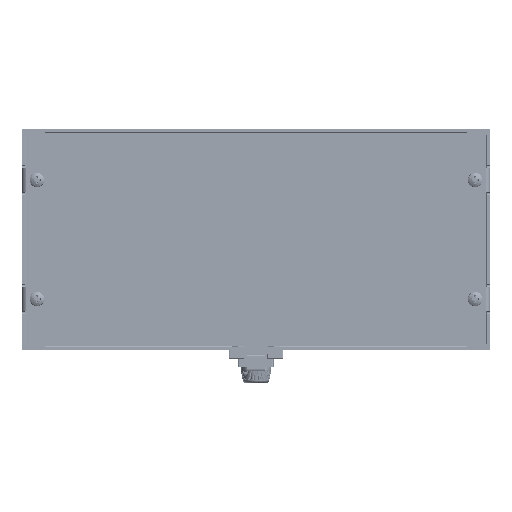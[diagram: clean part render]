
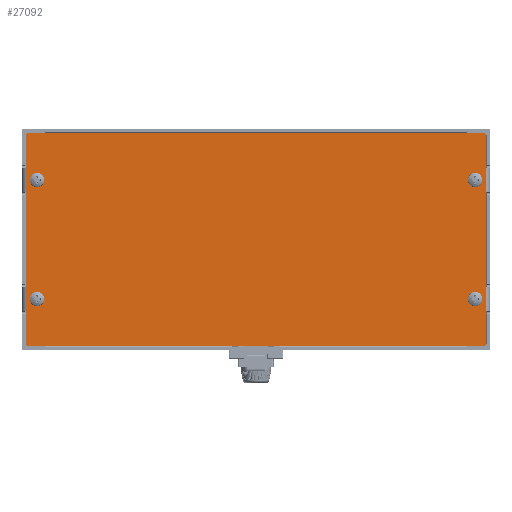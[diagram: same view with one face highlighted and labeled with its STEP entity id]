
A CAD part, front view. The second image highlights one B-rep face of the part: STEP entity #27092.
In plain terms, the highlighted planar face has unit normal (0, -1, 0).
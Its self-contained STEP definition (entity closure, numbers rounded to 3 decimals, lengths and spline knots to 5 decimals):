
#2291=CIRCLE('',#29316,0.00239);
#2292=CIRCLE('',#29317,0.00239);
#2293=CIRCLE('',#29318,0.00239);
#2294=CIRCLE('',#29319,0.00239);
#2295=CIRCLE('',#29320,0.00152);
#2296=CIRCLE('',#29321,0.00152);
#2297=CIRCLE('',#29322,0.00152);
#2298=CIRCLE('',#29323,0.00152);
#3171=LINE('',#45484,#5385);
#3172=LINE('',#45488,#5386);
#3173=LINE('',#45492,#5387);
#3174=LINE('',#45496,#5388);
#5385=VECTOR('',#32125,1.);
#5386=VECTOR('',#32128,1.);
#5387=VECTOR('',#32131,1.);
#5388=VECTOR('',#32134,1.);
#8334=ORIENTED_EDGE('',*,*,#15890,.T.);
#8335=ORIENTED_EDGE('',*,*,#15891,.T.);
#8336=ORIENTED_EDGE('',*,*,#15892,.T.);
#8337=ORIENTED_EDGE('',*,*,#15893,.T.);
#8338=ORIENTED_EDGE('',*,*,#15894,.F.);
#8339=ORIENTED_EDGE('',*,*,#15895,.T.);
#8340=ORIENTED_EDGE('',*,*,#15896,.F.);
#8341=ORIENTED_EDGE('',*,*,#15897,.T.);
#8342=ORIENTED_EDGE('',*,*,#15898,.F.);
#8343=ORIENTED_EDGE('',*,*,#15899,.T.);
#8344=ORIENTED_EDGE('',*,*,#15900,.F.);
#8345=ORIENTED_EDGE('',*,*,#15901,.T.);
#15890=EDGE_CURVE('',#19787,#19787,#2291,.T.);
#15891=EDGE_CURVE('',#19788,#19788,#2292,.T.);
#15892=EDGE_CURVE('',#19789,#19789,#2293,.T.);
#15893=EDGE_CURVE('',#19790,#19790,#2294,.T.);
#15894=EDGE_CURVE('',#19791,#19792,#2295,.T.);
#15895=EDGE_CURVE('',#19791,#19793,#3171,.T.);
#15896=EDGE_CURVE('',#19794,#19793,#2296,.T.);
#15897=EDGE_CURVE('',#19794,#19795,#3172,.T.);
#15898=EDGE_CURVE('',#19796,#19795,#2297,.T.);
#15899=EDGE_CURVE('',#19796,#19797,#3173,.T.);
#15900=EDGE_CURVE('',#19798,#19797,#2298,.T.);
#15901=EDGE_CURVE('',#19798,#19792,#3174,.T.);
#19787=VERTEX_POINT('',#45474);
#19788=VERTEX_POINT('',#45476);
#19789=VERTEX_POINT('',#45478);
#19790=VERTEX_POINT('',#45480);
#19791=VERTEX_POINT('',#45482);
#19792=VERTEX_POINT('',#45483);
#19793=VERTEX_POINT('',#45485);
#19794=VERTEX_POINT('',#45487);
#19795=VERTEX_POINT('',#45489);
#19796=VERTEX_POINT('',#45491);
#19797=VERTEX_POINT('',#45493);
#19798=VERTEX_POINT('',#45495);
#22517=EDGE_LOOP('',(#8334));
#22518=EDGE_LOOP('',(#8335));
#22519=EDGE_LOOP('',(#8336));
#22520=EDGE_LOOP('',(#8337));
#22521=EDGE_LOOP('',(#8338,#8339,#8340,#8341,#8342,#8343,#8344,#8345));
#24397=FACE_BOUND('',#22517,.T.);
#24398=FACE_BOUND('',#22518,.T.);
#24399=FACE_BOUND('',#22519,.T.);
#24400=FACE_BOUND('',#22520,.T.);
#24401=FACE_BOUND('',#22521,.T.);
#26198=PLANE('',#29315);
#27092=ADVANCED_FACE('',(#24397,#24398,#24399,#24400,#24401),#26198,.T.);
#29315=AXIS2_PLACEMENT_3D('',#45472,#32113,#32114);
#29316=AXIS2_PLACEMENT_3D('',#45473,#32115,#32116);
#29317=AXIS2_PLACEMENT_3D('',#45475,#32117,#32118);
#29318=AXIS2_PLACEMENT_3D('',#45477,#32119,#32120);
#29319=AXIS2_PLACEMENT_3D('',#45479,#32121,#32122);
#29320=AXIS2_PLACEMENT_3D('',#45481,#32123,#32124);
#29321=AXIS2_PLACEMENT_3D('',#45486,#32126,#32127);
#29322=AXIS2_PLACEMENT_3D('',#45490,#32129,#32130);
#29323=AXIS2_PLACEMENT_3D('',#45494,#32132,#32133);
#32113=DIRECTION('',(0.,-1.,0.));
#32114=DIRECTION('',(1.,0.,0.));
#32115=DIRECTION('',(0.,1.,0.));
#32116=DIRECTION('',(1.,0.,0.));
#32117=DIRECTION('',(0.,1.,0.));
#32118=DIRECTION('',(1.,0.,0.));
#32119=DIRECTION('',(0.,1.,0.));
#32120=DIRECTION('',(1.,0.,0.));
#32121=DIRECTION('',(0.,1.,0.));
#32122=DIRECTION('',(1.,0.,0.));
#32123=DIRECTION('',(0.,1.,0.));
#32124=DIRECTION('',(0.707,0.,0.707));
#32125=DIRECTION('',(-1.,0.,0.));
#32126=DIRECTION('',(0.,1.,0.));
#32127=DIRECTION('',(-0.707,0.,0.707));
#32128=DIRECTION('',(0.,0.,-1.));
#32129=DIRECTION('',(0.,1.,0.));
#32130=DIRECTION('',(-0.707,0.,-0.707));
#32131=DIRECTION('',(1.,0.,0.));
#32132=DIRECTION('',(0.,1.,0.));
#32133=DIRECTION('',(0.707,0.,-0.707));
#32134=DIRECTION('',(0.,0.,1.));
#45472=CARTESIAN_POINT('',(0.,-0.07999,0.));
#45473=CARTESIAN_POINT('',(-0.12344,-0.07999,-0.0335));
#45474=CARTESIAN_POINT('',(-0.12106,-0.07999,-0.0335));
#45475=CARTESIAN_POINT('',(0.12344,-0.07999,0.03355));
#45476=CARTESIAN_POINT('',(0.12583,-0.07999,0.03355));
#45477=CARTESIAN_POINT('',(-0.12344,-0.07999,0.03355));
#45478=CARTESIAN_POINT('',(-0.12106,-0.07999,0.03355));
#45479=CARTESIAN_POINT('',(0.12344,-0.07999,-0.0335));
#45480=CARTESIAN_POINT('',(0.12583,-0.07999,-0.0335));
#45481=CARTESIAN_POINT('',(0.12817,-0.07999,0.05855));
#45482=CARTESIAN_POINT('',(0.12817,-0.07999,0.06007));
#45483=CARTESIAN_POINT('',(0.12969,-0.07999,0.05855));
#45484=CARTESIAN_POINT('',(-0.12969,-0.07999,0.06007));
#45485=CARTESIAN_POINT('',(-0.12817,-0.07999,0.06007));
#45486=CARTESIAN_POINT('',(-0.12817,-0.07999,0.05855));
#45487=CARTESIAN_POINT('',(-0.12969,-0.07999,0.05855));
#45488=CARTESIAN_POINT('',(-0.12969,-0.07999,-0.06007));
#45489=CARTESIAN_POINT('',(-0.12969,-0.07999,-0.05855));
#45490=CARTESIAN_POINT('',(-0.12817,-0.07999,-0.05855));
#45491=CARTESIAN_POINT('',(-0.12817,-0.07999,-0.06007));
#45492=CARTESIAN_POINT('',(0.12969,-0.07999,-0.06007));
#45493=CARTESIAN_POINT('',(0.12817,-0.07999,-0.06007));
#45494=CARTESIAN_POINT('',(0.12817,-0.07999,-0.05855));
#45495=CARTESIAN_POINT('',(0.12969,-0.07999,-0.05855));
#45496=CARTESIAN_POINT('',(0.12969,-0.07999,0.06007));
